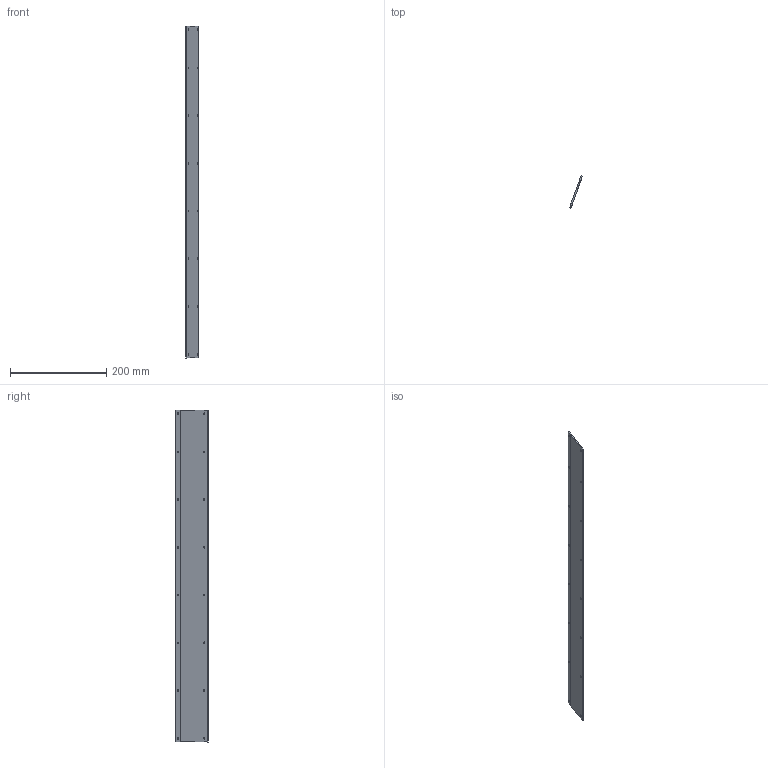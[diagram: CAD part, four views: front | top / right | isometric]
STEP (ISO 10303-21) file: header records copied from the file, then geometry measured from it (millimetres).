
FILE_DESCRIPTION(('STEP AP214'), '1');
FILE_NAME('Front_Panel', '', ('UNSPECIFIED'), ('UNSPECIFIED'), 'C3D Converter', 'C3D Toolkit', '');
FILE_SCHEMA(('AUTOMOTIVE_DESIGN { 1 0 10303 214 3 1 1}'));
Length unit declared in the file: millimetre
Bounding box: 26.47 x 66.74 x 689.38 mm (x, y, z)
Volume: 144022.8 mm3; surface area: 101083.3 mm2
Topology: 1 solids, 1 shells, 30 faces, 76 edges, 48 vertices
Faces by surface type: cylinder 16, plane 14
Full cylindrical faces by diameter (mm): 3.4 x16
Entity records: 934 total; most frequent: DIRECTION 154, CARTESIAN_POINT 139, ORIENTED_EDGE 120, EDGE_LOOP 78, AXIS2_PLACEMENT_3D 63, EDGE_CURVE 60, VERTEX_POINT 48, FACE_BOUND 46
